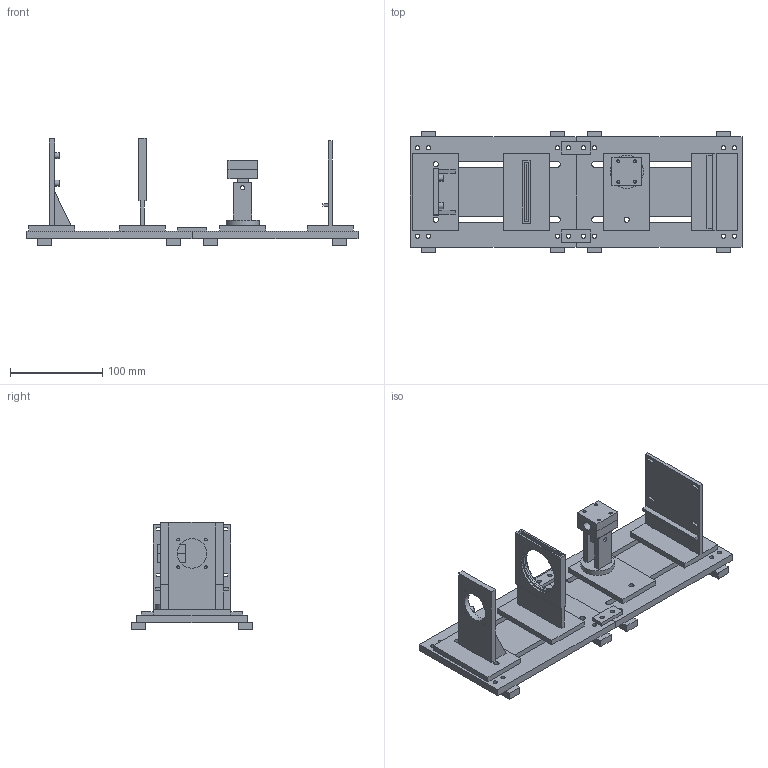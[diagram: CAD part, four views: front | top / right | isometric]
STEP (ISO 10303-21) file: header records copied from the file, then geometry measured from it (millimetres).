
FILE_DESCRIPTION(('Open CASCADE Model'),'2;1');
FILE_NAME('Open CASCADE Shape Model','2026-10-08T14:17:54',('Author'),( 'Open CASCADE'),'Open CASCADE STEP processor 7.9','Open CASCADE 7.9' ,'Unknown');
FILE_SCHEMA(('AUTOMOTIVE_DESIGN { 1 0 10303 214 1 1 1 1 }'));
Length unit declared in the file: millimetre
Products named in the file (15): mini_scos_bench_fixture_v01; rail_front; join_left; camera_bracket; laser_carrier; laser_yaw_clevis; laser_clamp_lower; laser_clamp_upper; filter_holder; filter_frame_back; target_holder; camera_spacer_0; camera_spacer_1; camera_spacer_2; camera_spacer_3
Assembly tree (17 placements, depth 2):
  mini_scos_bench_fixture_v01
    rail_front  x2
    join_left  x2
    camera_bracket
    laser_carrier
    laser_yaw_clevis
    laser_clamp_lower
    laser_clamp_upper
    filter_holder
    filter_frame_back  x2
    target_holder
    camera_spacer_0
    camera_spacer_1
    camera_spacer_2
    camera_spacer_3
Bounding box: 360 x 132 x 117 mm (x, y, z)
Volume: 554061.1 mm3; surface area: 217775.8 mm2
Topology: 17 solids, 17 shells, 301 faces, 789 edges, 510 vertices
Faces by surface type: plane 224, cylinder 77
Full cylindrical faces by diameter (mm): 2.3 x8, 2.8 x8, 3.4 x8, 4.6 x25, 5.6 x8, 6.4 x4, 32 x1, 36 x1, 48 x2, 52 x2
Entity records: 15767 total; most frequent: CARTESIAN_POINT 3334, DIRECTION 2202, LINE 1408, VECTOR 1408, ORIENTED_EDGE 1208, PCURVE 1208, DEFINITIONAL_REPRESENTATION 1208, EDGE_CURVE 604
